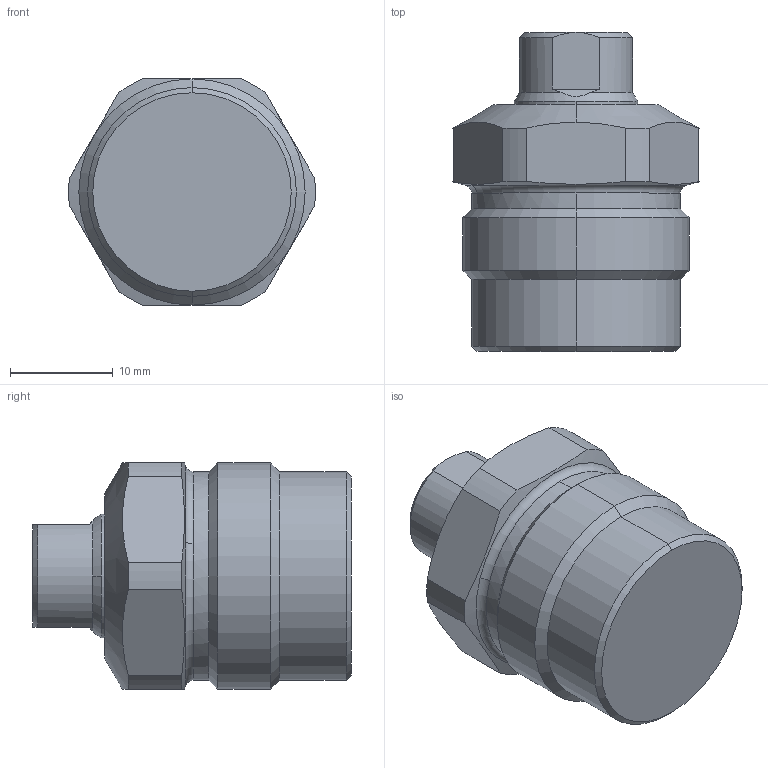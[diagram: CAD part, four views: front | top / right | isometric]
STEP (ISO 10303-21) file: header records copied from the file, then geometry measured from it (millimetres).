
FILE_DESCRIPTION((' '),'2;1');
FILE_NAME( 'TGM03-05.X_T.stp', '2024-08-27T13:43:49', (' '), ('--- Datakit www.datakit.com---'), ' Datakit CrossCadWare V2024.1 Dec 21 2023', 'Mastercam 2025', ' ');
FILE_SCHEMA(('AUTOMOTIVE_DESIGN { 1 0 10303 214 1 1 1 1 }'));
Length unit declared in the file: millimetre
Products named in the file (1): TGM03-05
Bounding box: 23.98 x 31 x 22 mm (x, y, z)
Volume: 8989.3 mm3; surface area: 3329.3 mm2
Topology: 2 solids, 2 shells, 58 faces, 141 edges, 88 vertices
Faces by surface type: cylinder 22, cone 18, plane 16, torus 2
Entity records: 1804 total; most frequent: CARTESIAN_POINT 406, DIRECTION 308, ORIENTED_EDGE 278, EDGE_CURVE 139, AXIS2_PLACEMENT_3D 130, VERTEX_POINT 88, CIRCLE 65, EDGE_LOOP 61
